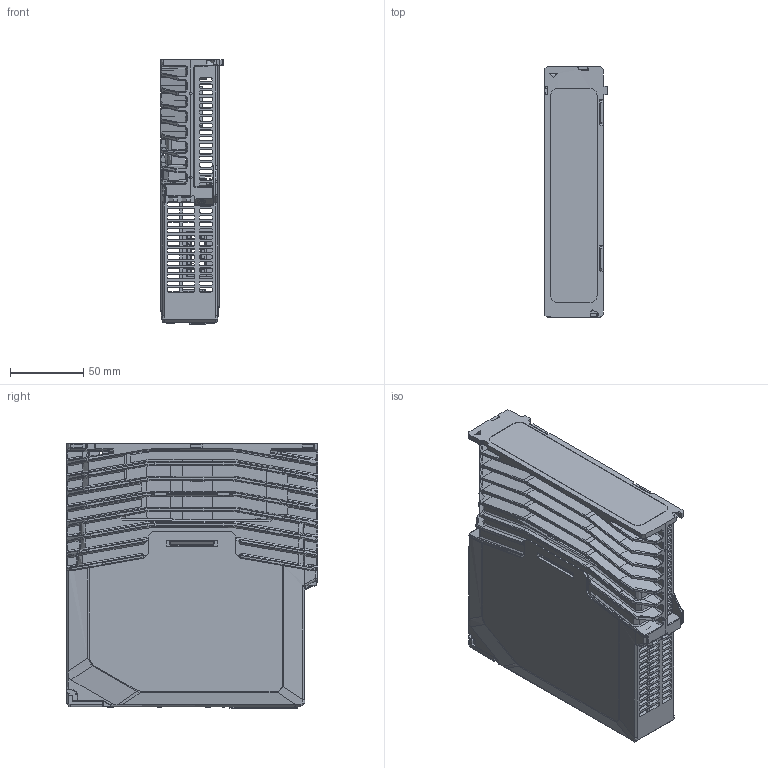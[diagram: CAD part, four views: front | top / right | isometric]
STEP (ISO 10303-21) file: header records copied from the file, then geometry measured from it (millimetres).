
FILE_DESCRIPTION (( 'STEP AP203' ), '1' );
FILE_NAME ('200VAC ,Rated power:50W~400W CanOPEN.STEP', '2024-08-22T12:55:39', ( '' ), ( '' ), 'SwSTEP 2.0', 'SolidWorks 2022', '' );
FILE_SCHEMA (( 'CONFIG_CONTROL_DESIGN' ));
Products named in the file (1): 200VAC ，Rated power：50W~400W CanOPEN
Bounding box: 43 x 172.2 x 181 mm (x, y, z)
Topology: 0 solids, 1397 shells, 2951 faces, 13868 edges, 12237 vertices
Faces by surface type: plane 1353, cylinder 758, bspline 419, cone 373, sphere 29, torus 19
Full cylindrical faces by diameter (mm): 0.4 x6
Entity records: 185977 total; most frequent: CARTESIAN_POINT 87318, ORIENTED_EDGE 17270, DIRECTION 15894, EDGE_CURVE 13829, VERTEX_POINT 12231, LINE 8652, VECTOR 8652, B_SPLINE_CURVE_WITH_KNOTS 3787
